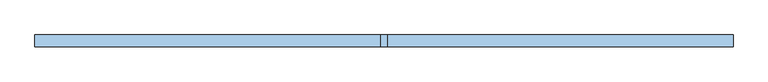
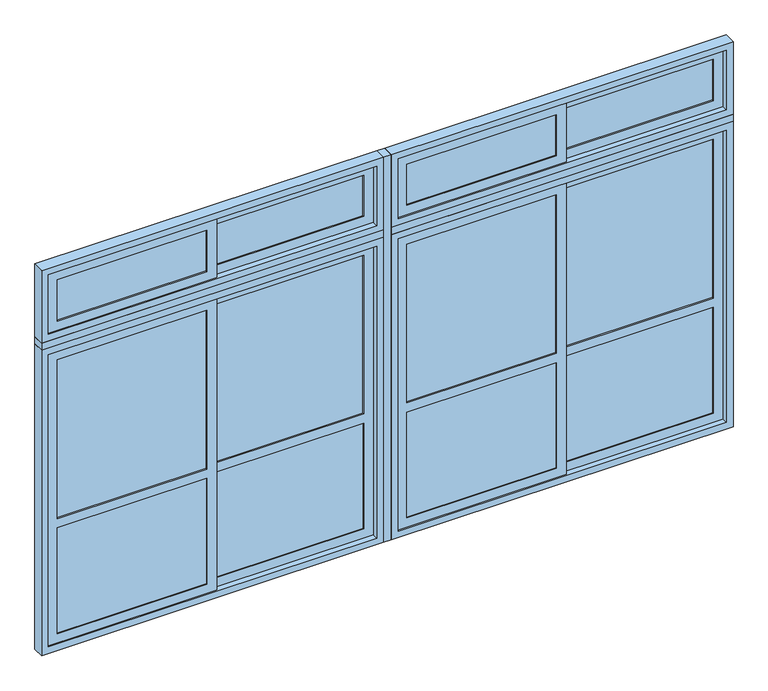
"""IFC4 building model written with IfcOpenShell, lengths in millimetres: window geometry, A11 Ventana_Corrediza_PC_4 hojas : A11.1 Ventana_Corrediza_PC_4 hojas 450x265."""

from ifc_helpers import new_model, si_unit, frame, origin, origin_with_axes, place, context, project, spatial, polyline, outline, extrude, source, transform, mapped, element, save


def window_d2615f25(model_context):
    return source(origin(), model_context, "Body", "SweptSolid", [
        extrude(outline(polyline([(-1169.0, 28.0), (-2142.0, 28.0), (-2142.0, 44.0), (-1169.0, 44.0), (-1169.0, 28.0)])), frame((0.0, 0.0, 108.0), z_axis=(0.0, 0.0, 1.0), x_axis=(1.0, 0.0, 0.0)), (0.0, 0.0, 1.0), 728.0),
        extrude(outline(polyline([(-133.0, 56.0), (-1106.0, 56.0), (-1106.0, 72.0), (-133.0, 72.0), (-133.0, 56.0)])), frame((0.0, 0.0, 108.0), z_axis=(0.0, 0.0, 1.0), x_axis=(1.0, 0.0, 0.0)), (0.0, 0.0, 1.0), 728.0),
        extrude(outline(polyline([(-1169.0, 31.5769719), (-2142.0, 31.5769719), (-2142.0, 40.4230281), (-1169.0, 40.4230281), (-1169.0, 31.5769719)])), frame((0.0, 0.0, 2258.0), z_axis=(0.0, 0.0, 1.0), x_axis=(1.0, 0.0, 0.0)), (0.0, 0.0, 1.0), 284.0),
        extrude(outline(polyline([(-1169.0, 31.5769719), (-2142.0, 31.5769719), (-2142.0, 40.4230281), (-1169.0, 40.4230281), (-1169.0, 31.5769719)])), frame((0.0, 0.0, 900.0), z_axis=(0.0, 0.0, 1.0), x_axis=(1.0, 0.0, 0.0)), (0.0, 0.0, 1.0), 1092.0),
        extrude(outline(polyline([(-133.0, 59.5769719), (-1106.0, 59.5769719), (-1106.0, 68.4230281), (-133.0, 68.4230281), (-133.0, 59.5769719)])), frame((0.0, 0.0, 2258.0), z_axis=(0.0, 0.0, 1.0), x_axis=(1.0, 0.0, 0.0)), (0.0, 0.0, 1.0), 284.0),
        extrude(outline(polyline([(-133.0, 59.5769719), (-1106.0, 59.5769719), (-1106.0, 68.4230281), (-133.0, 68.4230281), (-133.0, 59.5769719)])), frame((0.0, 0.0, 900.0), z_axis=(0.0, 0.0, 1.0), x_axis=(1.0, 0.0, 0.0)), (0.0, 0.0, 1.0), 1092.0),
        extrude(outline(polyline([(2605.0, -2205.0), (2195.0, -2205.0), (2195.0, -1106.0), (2605.0, -1106.0), (2605.0, -2205.0)]), holes=[polyline([(2542.0, -2142.0), (2542.0, -1169.0), (2258.0, -1169.0), (2258.0, -2142.0), (2542.0, -2142.0)])]), frame((0.0, 22.0, 0.0), z_axis=(0.0, 1.0, 0.0), x_axis=(0.0, 0.0, 1.0)), (0.0, 0.0, 1.0), 28.0),
        extrude(outline(polyline([(2055.0, -2205.0), (45.0, -2205.0), (45.0, -1106.0), (2055.0, -1106.0), (2055.0, -2205.0)]), holes=[polyline([(1992.0, -2142.0), (1992.0, -1169.0), (900.0, -1169.0), (900.0, -2142.0), (1992.0, -2142.0)]), polyline([(836.0, -2142.0), (836.0, -1169.0), (108.0, -1169.0), (108.0, -2142.0), (836.0, -2142.0)])]), frame((0.0, 22.0, 0.0), z_axis=(0.0, 1.0, 0.0), x_axis=(0.0, 0.0, 1.0)), (0.0, 0.0, 1.0), 28.0),
        extrude(outline(polyline([(2605.0, -1169.0), (2195.0, -1169.0), (2195.0, -70.0), (2605.0, -70.0), (2605.0, -1169.0)]), holes=[polyline([(2542.0, -1106.0), (2542.0, -133.0), (2258.0, -133.0), (2258.0, -1106.0), (2542.0, -1106.0)])]), frame((0.0, 50.0, 0.0), z_axis=(0.0, 1.0, 0.0), x_axis=(0.0, 0.0, 1.0)), (0.0, 0.0, 1.0), 28.0),
        extrude(outline(polyline([(2055.0, -1169.0), (45.0, -1169.0), (45.0, -70.0), (2055.0, -70.0), (2055.0, -1169.0)]), holes=[polyline([(1992.0, -1106.0), (1992.0, -133.0), (900.0, -133.0), (900.0, -1106.0), (1992.0, -1106.0)]), polyline([(836.0, -1106.0), (836.0, -133.0), (108.0, -133.0), (108.0, -1106.0), (836.0, -1106.0)])]), frame((0.0, 50.0, 0.0), z_axis=(0.0, 1.0, 0.0), x_axis=(0.0, 0.0, 1.0)), (0.0, 0.0, 1.0), 28.0),
        extrude(outline(polyline([(1106.0, 28.0), (133.0, 28.0), (133.0, 44.0), (1106.0, 44.0), (1106.0, 28.0)])), frame((0.0, 0.0, 108.0), z_axis=(0.0, 0.0, 1.0), x_axis=(1.0, 0.0, 0.0)), (0.0, 0.0, 1.0), 728.0),
        extrude(outline(polyline([(2142.0, 56.0), (1169.0, 56.0), (1169.0, 72.0), (2142.0, 72.0), (2142.0, 56.0)])), frame((0.0, 0.0, 108.0), z_axis=(0.0, 0.0, 1.0), x_axis=(1.0, 0.0, 0.0)), (0.0, 0.0, 1.0), 728.0),
        extrude(outline(polyline([(1106.0, 31.5769719), (133.0, 31.5769719), (133.0, 40.4230281), (1106.0, 40.4230281), (1106.0, 31.5769719)])), frame((0.0, 0.0, 2258.0), z_axis=(0.0, 0.0, 1.0), x_axis=(1.0, 0.0, 0.0)), (0.0, 0.0, 1.0), 284.0),
        extrude(outline(polyline([(1106.0, 31.5769719), (133.0, 31.5769719), (133.0, 40.4230281), (1106.0, 40.4230281), (1106.0, 31.5769719)])), frame((0.0, 0.0, 900.0), z_axis=(0.0, 0.0, 1.0), x_axis=(1.0, 0.0, 0.0)), (0.0, 0.0, 1.0), 1092.0),
        extrude(outline(polyline([(2142.0, 59.5769719), (1169.0, 59.5769719), (1169.0, 68.4230281), (2142.0, 68.4230281), (2142.0, 59.5769719)])), frame((0.0, 0.0, 2258.0), z_axis=(0.0, 0.0, 1.0), x_axis=(1.0, 0.0, 0.0)), (0.0, 0.0, 1.0), 284.0),
        extrude(outline(polyline([(2142.0, 59.5769719), (1169.0, 59.5769719), (1169.0, 68.4230281), (2142.0, 68.4230281), (2142.0, 59.5769719)])), frame((0.0, 0.0, 900.0), z_axis=(0.0, 0.0, 1.0), x_axis=(1.0, 0.0, 0.0)), (0.0, 0.0, 1.0), 1092.0),
        extrude(outline(polyline([(45.0, 70.0), (45.0, 1169.0), (2055.0, 1169.0), (2055.0, 70.0), (45.0, 70.0)]), holes=[polyline([(900.0, 133.0), (1992.0, 133.0), (1992.0, 1106.0), (900.0, 1106.0), (900.0, 133.0)]), polyline([(108.0, 133.0), (836.0, 133.0), (836.0, 1106.0), (108.0, 1106.0), (108.0, 133.0)])]), frame((0.0, 22.0, 0.0), z_axis=(0.0, 1.0, 0.0), x_axis=(0.0, 0.0, 1.0)), (0.0, 0.0, 1.0), 28.0),
        extrude(outline(polyline([(2605.0, 70.0), (2195.0, 70.0), (2195.0, 1169.0), (2605.0, 1169.0), (2605.0, 70.0)]), holes=[polyline([(2258.0, 133.0), (2542.0, 133.0), (2542.0, 1106.0), (2258.0, 1106.0), (2258.0, 133.0)])]), frame((0.0, 22.0, 0.0), z_axis=(0.0, 1.0, 0.0), x_axis=(0.0, 0.0, 1.0)), (0.0, 0.0, 1.0), 28.0),
        extrude(outline(polyline([(2055.0, 2205.0), (2055.0, 1106.0), (45.0, 1106.0), (45.0, 2205.0), (2055.0, 2205.0)]), holes=[polyline([(1992.0, 1169.0), (1992.0, 2142.0), (900.0, 2142.0), (900.0, 1169.0), (1992.0, 1169.0)]), polyline([(836.0, 1169.0), (836.0, 2142.0), (108.0, 2142.0), (108.0, 1169.0), (836.0, 1169.0)])]), frame((0.0, 50.0, 0.0), z_axis=(0.0, 1.0, 0.0), x_axis=(0.0, 0.0, 1.0)), (0.0, 0.0, 1.0), 28.0),
        extrude(outline(polyline([(2195.0, 1106.0), (2195.0, 2205.0), (2605.0, 2205.0), (2605.0, 1106.0), (2195.0, 1106.0)]), holes=[polyline([(2542.0, 1169.0), (2542.0, 2142.0), (2258.0, 2142.0), (2258.0, 1169.0), (2542.0, 1169.0)])]), frame((0.0, 50.0, 0.0), z_axis=(0.0, 1.0, 0.0), x_axis=(0.0, 0.0, 1.0)), (0.0, 0.0, 1.0), 28.0),
        extrude(outline(polyline([(2100.0, 25.0), (0.0, 25.0), (0.0, 2250.0), (2100.0, 2250.0), (2100.0, 25.0)]), holes=[polyline([(2055.0, 70.0), (2055.0, 2205.0), (45.0, 2205.0), (45.0, 70.0), (2055.0, 70.0)])]), frame((0.0, 12.5, 0.0), z_axis=(0.0, 1.0, 0.0), x_axis=(0.0, 0.0, 1.0)), (0.0, 0.0, 1.0), 75.0),
        extrude(outline(polyline([(2100.0, -2250.0), (0.0, -2250.0), (0.0, -25.0), (2100.0, -25.0), (2100.0, -2250.0)]), holes=[polyline([(2055.0, -2205.0), (2055.0, -70.0), (45.0, -70.0), (45.0, -2205.0), (2055.0, -2205.0)])]), frame((0.0, 12.5, 0.0), z_axis=(0.0, 1.0, 0.0), x_axis=(0.0, 0.0, 1.0)), (0.0, 0.0, 1.0), 75.0),
        extrude(outline(polyline([(2650.0, 25.0), (2150.0, 25.0), (2150.0, 2250.0), (2650.0, 2250.0), (2650.0, 25.0)]), holes=[polyline([(2605.0, 70.0), (2605.0, 2205.0), (2195.0, 2205.0), (2195.0, 70.0), (2605.0, 70.0)])]), frame((0.0, 12.5, 0.0), z_axis=(0.0, 1.0, 0.0), x_axis=(0.0, 0.0, 1.0)), (0.0, 0.0, 1.0), 75.0),
        extrude(outline(polyline([(2150.0, -2250.0), (2150.0, -25.0), (2650.0, -25.0), (2650.0, -2250.0), (2150.0, -2250.0)]), holes=[polyline([(2605.0, -2205.0), (2605.0, -70.0), (2195.0, -70.0), (2195.0, -2205.0), (2605.0, -2205.0)])]), frame((0.0, 12.5, 0.0), z_axis=(0.0, 1.0, 0.0), x_axis=(0.0, 0.0, 1.0)), (0.0, 0.0, 1.0), 75.0),
        extrude(outline(polyline([(2250.0, 12.5), (25.0, 12.5), (25.0, 87.5), (2250.0, 87.5), (2250.0, 12.5)])), frame((0.0, 0.0, 2100.0), z_axis=(0.0, 0.0, 1.0), x_axis=(1.0, 0.0, 0.0)), (0.0, 0.0, 1.0), 50.0),
        extrude(outline(polyline([(-25.0, 12.5), (-2250.0, 12.5), (-2250.0, 87.5), (-25.0, 87.5), (-25.0, 12.5)])), frame((0.0, 0.0, 2100.0), z_axis=(0.0, 0.0, 1.0), x_axis=(1.0, 0.0, 0.0)), (0.0, 0.0, 1.0), 50.0),
        extrude(outline(polyline([(25.0, 12.5), (-25.0, 12.5), (-25.0, 87.5), (25.0, 87.5), (25.0, 12.5)])), origin_with_axes(), (0.0, 0.0, 1.0), 2650.0),
    ])


if __name__ == "__main__":
    model = new_model("IFC4")
    model_context = context("Model", 3, world=origin())
    ifc_project = project(units=[si_unit("LENGTHUNIT", "METRE", prefix="MILLI")], contexts=[model_context])
    site = spatial("IfcSite", under=ifc_project)
    building = spatial("IfcBuilding", under=site)
    placement = place(None, origin())
    window_shape = window_d2615f25(model_context)
    element("IfcWindow", 1, ObjectType="A11 Ventana_Corrediza_PC_4 hojas : A11.1 Ventana_Corrediza_PC_4 hojas 450x265", at=placement, inside=building, context=model_context, shape_type="MappedRepresentation", body=[
        mapped(window_shape, transform((0.0, 0.0, 0.0), x_axis=(1.0, 0.0, 0.0), y_axis=(0.0, 1.0, 0.0), z_axis=(0.0, 0.0, 1.0))),
    ])
    save(model, "model.ifc")
